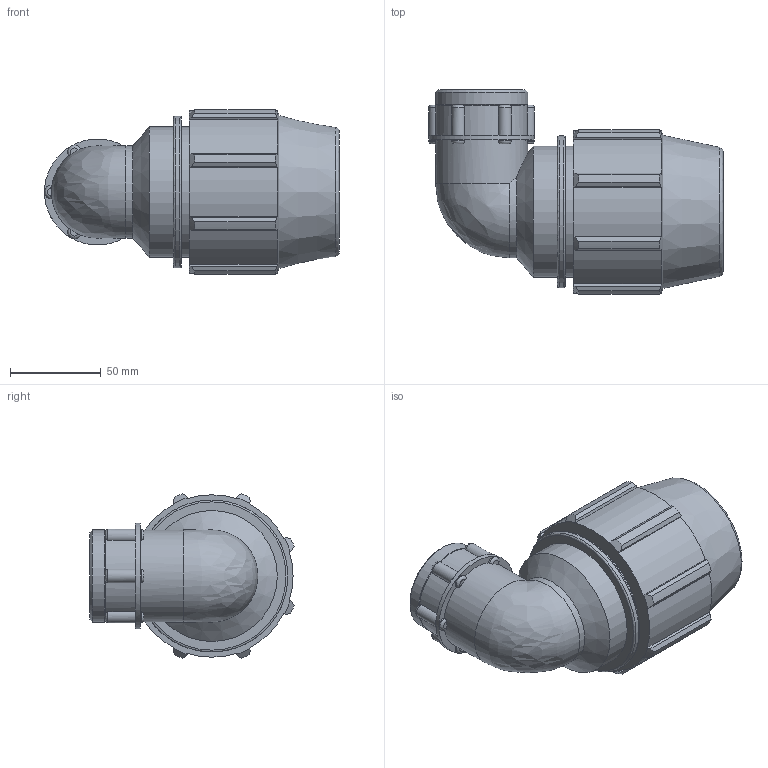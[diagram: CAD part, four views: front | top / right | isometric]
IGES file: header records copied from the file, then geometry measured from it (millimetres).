
Global section: file name: 071500050013_181500050013_0715060500130A.ipt; native system: Autodesk Inventor 2015; preprocessor: unknown; author: KIM; date: 20170606.172217; units: millimetre
Bounding box: 162.12 x 112.16 x 90.33 mm (x, y, z)
Volume: 481776.2 mm3; surface area: 81730.1 mm2
Topology: 1 solids, 1 shells, 138 faces, 379 edges, 249 vertices
Faces by surface type: plane 60, cylinder 41, revolution 22, cone 14, bspline 1
Full cylindrical faces by diameter (mm): 50.638 x2, 58.233 x1, 72 x2, 83.52 x1
